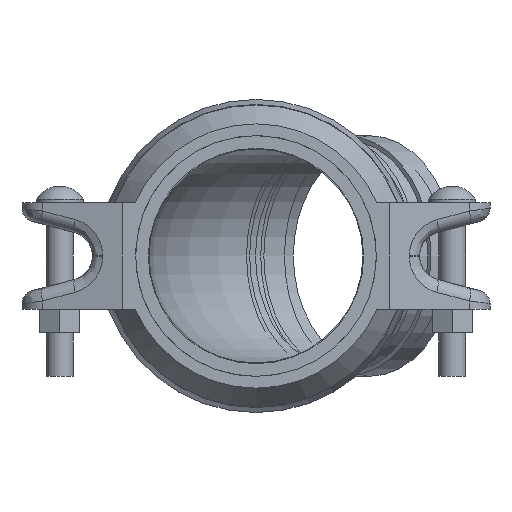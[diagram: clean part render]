
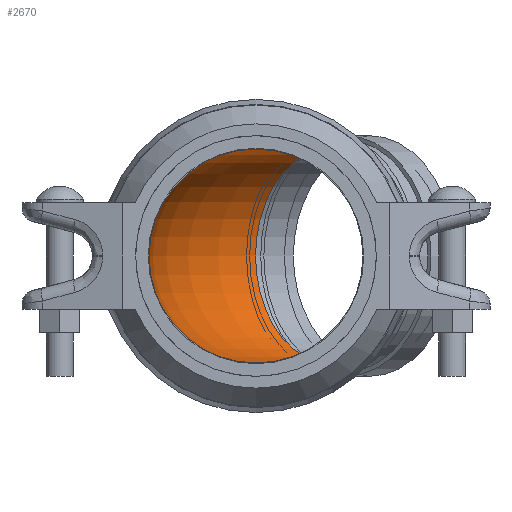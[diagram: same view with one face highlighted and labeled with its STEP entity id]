
A CAD part, left-side view. The second image highlights one B-rep face of the part: STEP entity #2670.
In plain terms, the highlighted toroidal (fillet/blend) face has major radius 122.642 mm and minor radius 51.13 mm.
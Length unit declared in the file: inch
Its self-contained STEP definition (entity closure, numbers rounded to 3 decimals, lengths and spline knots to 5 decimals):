
#122=TOROIDAL_SURFACE('',#2932,4.82843,2.013);
#565=FACE_OUTER_BOUND('',#718,.T.);
#718=EDGE_LOOP('',(#1702,#1703,#1704,#1705,#1706,#1707));
#897=CIRCLE('',#2933,2.013);
#898=CIRCLE('',#2934,2.013);
#899=CIRCLE('',#2935,2.81543);
#900=CIRCLE('',#2936,2.013);
#901=CIRCLE('',#2937,2.013);
#1043=VERTEX_POINT('',#4100);
#1044=VERTEX_POINT('',#4101);
#1045=VERTEX_POINT('',#4104);
#1046=VERTEX_POINT('',#4106);
#1305=EDGE_CURVE('',#1043,#1044,#897,.T.);
#1306=EDGE_CURVE('',#1044,#1043,#898,.T.);
#1307=EDGE_CURVE('',#1043,#1045,#899,.T.);
#1308=EDGE_CURVE('',#1045,#1046,#900,.T.);
#1309=EDGE_CURVE('',#1046,#1045,#901,.T.);
#1702=ORIENTED_EDGE('',*,*,#1305,.T.);
#1703=ORIENTED_EDGE('',*,*,#1306,.T.);
#1704=ORIENTED_EDGE('',*,*,#1307,.T.);
#1705=ORIENTED_EDGE('',*,*,#1308,.T.);
#1706=ORIENTED_EDGE('',*,*,#1309,.T.);
#1707=ORIENTED_EDGE('',*,*,#1307,.F.);
#2670=ADVANCED_FACE('',(#565),#122,.F.);
#2932=AXIS2_PLACEMENT_3D('',#4099,#3282,#3283);
#2933=AXIS2_PLACEMENT_3D('',#4102,#3284,#3285);
#2934=AXIS2_PLACEMENT_3D('',#4103,#3286,#3287);
#2935=AXIS2_PLACEMENT_3D('',#4105,#3288,#3289);
#2936=AXIS2_PLACEMENT_3D('',#4107,#3290,#3291);
#2937=AXIS2_PLACEMENT_3D('',#4108,#3292,#3293);
#3282=DIRECTION('center_axis',(0.,0.,-1.));
#3283=DIRECTION('ref_axis',(-1.,0.,0.));
#3284=DIRECTION('center_axis',(0.,-1.,0.));
#3285=DIRECTION('ref_axis',(1.,0.,0.));
#3286=DIRECTION('center_axis',(0.,-1.,0.));
#3287=DIRECTION('ref_axis',(1.,0.,0.));
#3288=DIRECTION('center_axis',(0.,0.,-1.));
#3289=DIRECTION('ref_axis',(-1.,0.,0.));
#3290=DIRECTION('center_axis',(0.707,0.707,0.));
#3291=DIRECTION('ref_axis',(0.707,-0.707,0.));
#3292=DIRECTION('center_axis',(0.707,0.707,0.));
#3293=DIRECTION('ref_axis',(0.707,-0.707,0.));
#4099=CARTESIAN_POINT('Origin',(4.82843,1.,0.));
#4100=CARTESIAN_POINT('',(2.013,1.,0.));
#4101=CARTESIAN_POINT('',(-2.013,1.,0.));
#4102=CARTESIAN_POINT('Origin',(0.,1.,0.));
#4103=CARTESIAN_POINT('Origin',(0.,1.,0.));
#4104=CARTESIAN_POINT('',(2.83762,2.99081,0.));
#4105=CARTESIAN_POINT('Origin',(4.82843,1.,0.));
#4106=CARTESIAN_POINT('',(-0.00919,5.83762,0.));
#4107=CARTESIAN_POINT('Origin',(1.41421,4.41421,0.));
#4108=CARTESIAN_POINT('Origin',(1.41421,4.41421,0.));
